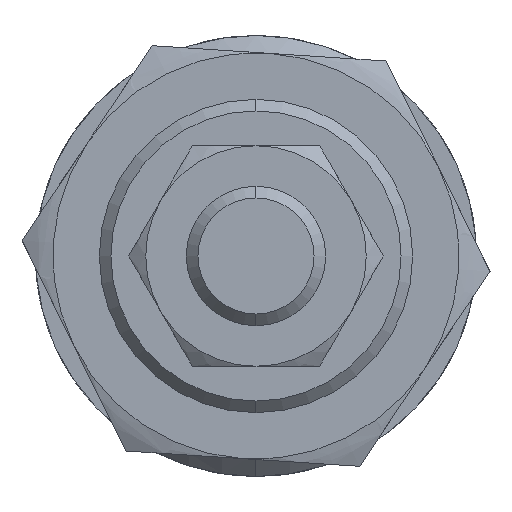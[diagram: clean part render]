
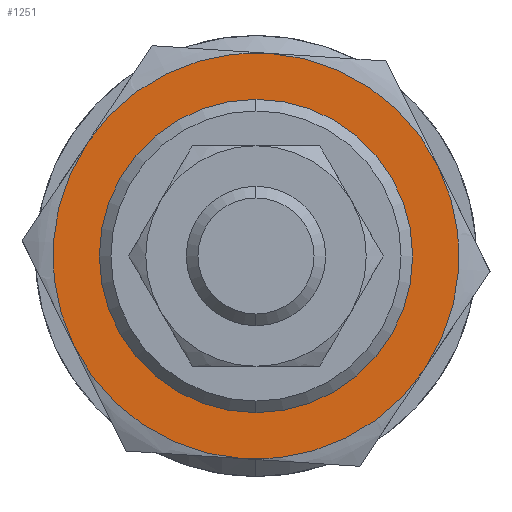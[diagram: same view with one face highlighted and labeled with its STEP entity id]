
A CAD part, left-side view. The second image highlights one B-rep face of the part: STEP entity #1251.
In plain terms, the highlighted planar face has unit normal (-1, 0, 0) as drawn and (0, 0, -1) by its records, which use the part's own axes.
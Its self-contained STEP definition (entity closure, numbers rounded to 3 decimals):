
#19 = CIRCLE ( 'NONE', #1800, 17.5 ) ;
#104 = CARTESIAN_POINT ( 'NONE',  ( -8.75, -15.155, -5. ) ) ;
#142 = VERTEX_POINT ( 'NONE', #1601 ) ;
#187 = VERTEX_POINT ( 'NONE', #2383 ) ;
#318 = CARTESIAN_POINT ( 'NONE',  ( -17.5, 0., -5. ) ) ;
#433 = AXIS2_PLACEMENT_3D ( 'NONE', #2066, #2328, #2372 ) ;
#447 = CIRCLE ( 'NONE', #2692, 17.5 ) ;
#505 = ORIENTED_EDGE ( 'NONE', *, *, #2267, .F. ) ;
#509 = ORIENTED_EDGE ( 'NONE', *, *, #603, .T. ) ;
#603 = EDGE_CURVE ( 'NONE', #142, #3004, #2080, .T. ) ;
#614 = VERTEX_POINT ( 'NONE', #1146 ) ;
#635 = EDGE_CURVE ( 'NONE', #187, #614, #19, .T. ) ;
#667 = DIRECTION ( 'NONE',  ( 1., 0., 0. ) ) ;
#676 = AXIS2_PLACEMENT_3D ( 'NONE', #3246, #1381, #1073 ) ;
#701 = ORIENTED_EDGE ( 'NONE', *, *, #1577, .F. ) ;
#741 = EDGE_LOOP ( 'NONE', ( #509, #1306 ) ) ;
#754 = EDGE_LOOP ( 'NONE', ( #505, #2474, #1388, #701, #2673, #1972 ) ) ;
#872 = EDGE_CURVE ( 'NONE', #2261, #1888, #2212, .T. ) ;
#904 = PLANE ( 'NONE',  #676 ) ;
#916 = DIRECTION ( 'NONE',  ( 1., 0., 0. ) ) ;
#930 = AXIS2_PLACEMENT_3D ( 'NONE', #1455, #2179, #667 ) ;
#933 = EDGE_CURVE ( 'NONE', #614, #1607, #934, .T. ) ;
#934 = CIRCLE ( 'NONE', #1786, 17.5 ) ;
#1073 = DIRECTION ( 'NONE',  ( 1., 0., 0. ) ) ;
#1146 = CARTESIAN_POINT ( 'NONE',  ( -8.75, 15.155, -5. ) ) ;
#1215 = CIRCLE ( 'NONE', #2933, 17.5 ) ;
#1251 = ADVANCED_FACE ( 'NONE', ( #1843, #1795 ), #904, .F. ) ;
#1253 = CIRCLE ( 'NONE', #3136, 12.5 ) ;
#1268 = AXIS2_PLACEMENT_3D ( 'NONE', #3223, #2481, #1682 ) ;
#1306 = ORIENTED_EDGE ( 'NONE', *, *, #2303, .T. ) ;
#1348 = CARTESIAN_POINT ( 'NONE',  ( 0., 0., -5. ) ) ;
#1381 = DIRECTION ( 'NONE',  ( 0., 0., 1. ) ) ;
#1388 = ORIENTED_EDGE ( 'NONE', *, *, #2644, .F. ) ;
#1442 = CARTESIAN_POINT ( 'NONE',  ( 0., 0., -5. ) ) ;
#1455 = CARTESIAN_POINT ( 'NONE',  ( 0., 0., -5. ) ) ;
#1577 = EDGE_CURVE ( 'NONE', #1607, #2130, #1215, .T. ) ;
#1583 = CARTESIAN_POINT ( 'NONE',  ( 17.5, 0., -5. ) ) ;
#1601 = CARTESIAN_POINT ( 'NONE',  ( 12.5, 0., -5. ) ) ;
#1607 = VERTEX_POINT ( 'NONE', #318 ) ;
#1609 = DIRECTION ( 'NONE',  ( 0., 0., 1. ) ) ;
#1682 = DIRECTION ( 'NONE',  ( 1., 0., 0. ) ) ;
#1757 = DIRECTION ( 'NONE',  ( 0., 0., 1. ) ) ;
#1784 = CARTESIAN_POINT ( 'NONE',  ( 8.75, -15.155, -5. ) ) ;
#1786 = AXIS2_PLACEMENT_3D ( 'NONE', #3131, #2084, #2100 ) ;
#1795 = FACE_OUTER_BOUND ( 'NONE', #754, .T. ) ;
#1800 = AXIS2_PLACEMENT_3D ( 'NONE', #1442, #2487, #916 ) ;
#1843 = FACE_BOUND ( 'NONE', #741, .T. ) ;
#1873 = DIRECTION ( 'NONE',  ( 1., 0., 0. ) ) ;
#1885 = CARTESIAN_POINT ( 'NONE',  ( 0., 0., -5. ) ) ;
#1888 = VERTEX_POINT ( 'NONE', #1583 ) ;
#1972 = ORIENTED_EDGE ( 'NONE', *, *, #635, .F. ) ;
#2066 = CARTESIAN_POINT ( 'NONE',  ( 0., 0., -5. ) ) ;
#2080 = CIRCLE ( 'NONE', #1268, 12.5 ) ;
#2084 = DIRECTION ( 'NONE',  ( 0., 0., 1. ) ) ;
#2100 = DIRECTION ( 'NONE',  ( 1., 0., 0. ) ) ;
#2130 = VERTEX_POINT ( 'NONE', #104 ) ;
#2179 = DIRECTION ( 'NONE',  ( 0., 0., 1. ) ) ;
#2212 = CIRCLE ( 'NONE', #433, 17.5 ) ;
#2261 = VERTEX_POINT ( 'NONE', #1784 ) ;
#2267 = EDGE_CURVE ( 'NONE', #1888, #187, #2893, .T. ) ;
#2276 = CARTESIAN_POINT ( 'NONE',  ( -12.5, 0., -5. ) ) ;
#2303 = EDGE_CURVE ( 'NONE', #3004, #142, #1253, .T. ) ;
#2328 = DIRECTION ( 'NONE',  ( 0., 0., 1. ) ) ;
#2372 = DIRECTION ( 'NONE',  ( 1., 0., 0. ) ) ;
#2381 = CARTESIAN_POINT ( 'NONE',  ( 0., 0., -5. ) ) ;
#2383 = CARTESIAN_POINT ( 'NONE',  ( 8.75, 15.155, -5. ) ) ;
#2474 = ORIENTED_EDGE ( 'NONE', *, *, #872, .F. ) ;
#2481 = DIRECTION ( 'NONE',  ( 0., 0., 1. ) ) ;
#2487 = DIRECTION ( 'NONE',  ( 0., 0., 1. ) ) ;
#2644 = EDGE_CURVE ( 'NONE', #2130, #2261, #447, .T. ) ;
#2673 = ORIENTED_EDGE ( 'NONE', *, *, #933, .F. ) ;
#2692 = AXIS2_PLACEMENT_3D ( 'NONE', #1348, #2909, #2928 ) ;
#2893 = CIRCLE ( 'NONE', #930, 17.5 ) ;
#2909 = DIRECTION ( 'NONE',  ( 0., 0., 1. ) ) ;
#2928 = DIRECTION ( 'NONE',  ( 1., 0., 0. ) ) ;
#2933 = AXIS2_PLACEMENT_3D ( 'NONE', #2381, #1609, #1873 ) ;
#3004 = VERTEX_POINT ( 'NONE', #2276 ) ;
#3131 = CARTESIAN_POINT ( 'NONE',  ( 0., 0., -5. ) ) ;
#3136 = AXIS2_PLACEMENT_3D ( 'NONE', #1885, #1757, #3211 ) ;
#3211 = DIRECTION ( 'NONE',  ( 1., 0., 0. ) ) ;
#3223 = CARTESIAN_POINT ( 'NONE',  ( 0., 0., -5. ) ) ;
#3246 = CARTESIAN_POINT ( 'NONE',  ( 0., 0., -5. ) ) ;
